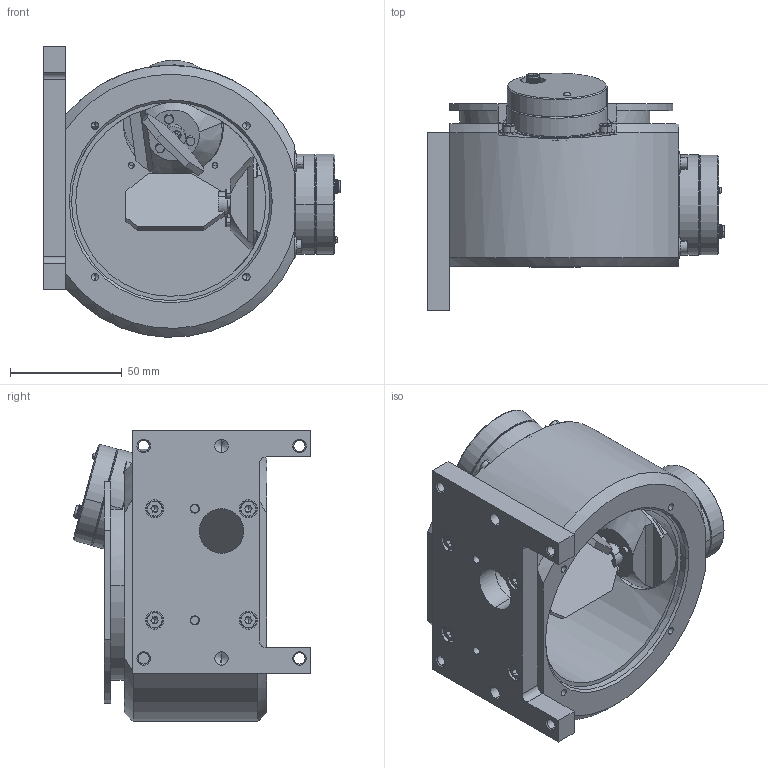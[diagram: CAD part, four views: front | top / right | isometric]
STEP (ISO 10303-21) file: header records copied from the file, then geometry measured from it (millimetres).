
FILE_DESCRIPTION (( 'STEP AP214' ), '1' );
FILE_NAME ('MSA_A20.STEP', '2019-06-06T11:45:01', ( '' ), ( '' ), 'SwSTEP 2.0', 'SolidWorks 2011', '' );
FILE_SCHEMA (( 'AUTOMOTIVE_DESIGN' ));
Length unit declared in the file: millimetre
Products named in the file (14): RTAX_A20; parallel pin hardened_iso_Parallel Pin ISO 8734 - 4 x 10 - A - St; A20_MirrorX; RTAY_A20; socket head cap screw_iso_ISO 4762 M2 x 5 --- 5N; A20_MirrorY; Scanner_Draw10_4; Scanner_Solid; socket head cap screw_iso_ISO 4762 M3 x 8 --- 8N; plain washer 10673 type snl_iso_ISO 10673-3.2-N; socket head cap screw_iso_ISO 4762 M4 x 12 --- 12C; rhothor_montage_plaat_Draw01_3; Draw07_1; MSA_A20
Assembly tree (36 placements, depth 3):
  MSA_A20
    socket head cap screw_iso_ISO 4762 M3 x 8 --- 8N  x8
    socket head cap screw_iso_ISO 4762 M4 x 12 --- 12C  x4
    plain washer 10673 type snl_iso_ISO 10673-3.2-N  x8
    Draw07_1
    rhothor_montage_plaat_Draw01_3
    RTAX_A20
      Scanner_Draw10_4
      A20_MirrorX
      socket head cap screw_iso_ISO 4762 M2 x 5 --- 5N  x2
      Scanner_Solid
    RTAY_A20
      socket head cap screw_iso_ISO 4762 M2 x 5 --- 5N  x2
      Scanner_Draw10_4
      A20_MirrorY
      Scanner_Solid
    parallel pin hardened_iso_Parallel Pin ISO 8734 - 4 x 10 - A - St  x2
Bounding box: 133.05 x 106.52 x 130.29 mm (x, y, z)
Volume: 542194.2 mm3; surface area: 116368.1 mm2
Topology: 34 solids, 34 shells, 971 faces, 2201 edges, 1311 vertices
Faces by surface type: plane 388, cylinder 300, cone 203, torus 80
Entity records: 15236 total; most frequent: CARTESIAN_POINT 2754, DIRECTION 2372, ORIENTED_EDGE 2020, EDGE_CURVE 1010, AXIS2_PLACEMENT_3D 946, VERTEX_POINT 634, EDGE_LOOP 528, VECTOR 480
